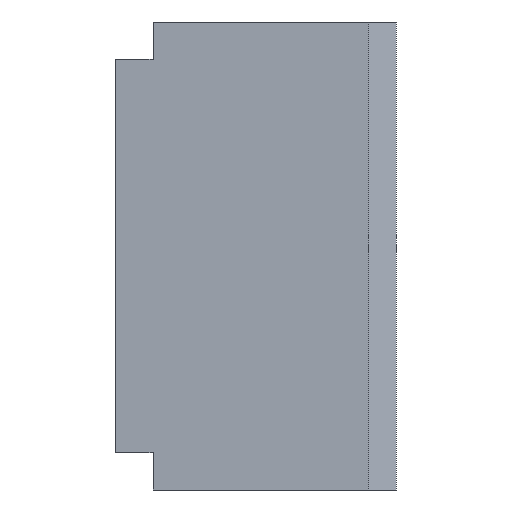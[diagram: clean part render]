
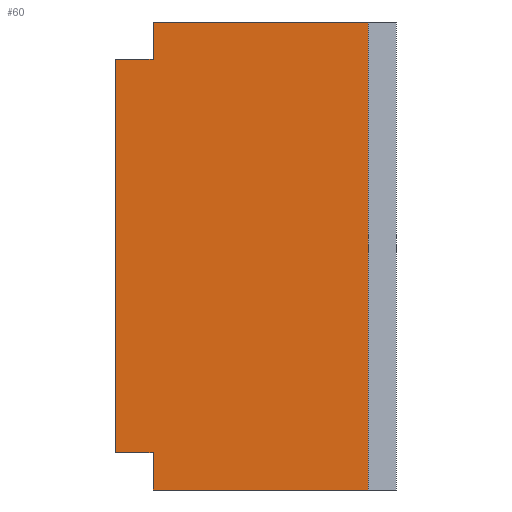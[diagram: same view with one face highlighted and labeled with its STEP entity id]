
A CAD part, front view. The second image highlights one B-rep face of the part: STEP entity #60.
In plain terms, the highlighted planar face has unit normal (0, -1, 0).
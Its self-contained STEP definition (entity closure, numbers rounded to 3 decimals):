
#60=ADVANCED_FACE('',(#82),#83,.T.);
#82=FACE_OUTER_BOUND('',#105,.T.);
#83=PLANE('',#106);
#105=EDGE_LOOP('',(#178,#179,#180,#181,#182,#183,#184,#185));
#106=AXIS2_PLACEMENT_3D('',#186,#187,#188);
#178=ORIENTED_EDGE('',*,*,#200,.T.);
#179=ORIENTED_EDGE('',*,*,#224,.F.);
#180=ORIENTED_EDGE('',*,*,#222,.T.);
#181=ORIENTED_EDGE('',*,*,#217,.T.);
#182=ORIENTED_EDGE('',*,*,#214,.T.);
#183=ORIENTED_EDGE('',*,*,#216,.T.);
#184=ORIENTED_EDGE('',*,*,#211,.F.);
#185=ORIENTED_EDGE('',*,*,#203,.T.);
#186=CARTESIAN_POINT('',(28.5,-1.5,-1.0));
#187=DIRECTION('',(0.,-1.0,-0.0));
#188=DIRECTION('',(0.0,0.0,-1.0));
#200=EDGE_CURVE('',#230,#228,#231,.T.);
#203=EDGE_CURVE('',#235,#230,#236,.T.);
#211=EDGE_CURVE('',#235,#249,#250,.T.);
#214=EDGE_CURVE('',#254,#252,#255,.T.);
#216=EDGE_CURVE('',#252,#249,#257,.T.);
#217=EDGE_CURVE('',#258,#254,#259,.T.);
#222=EDGE_CURVE('',#266,#258,#267,.T.);
#224=EDGE_CURVE('',#266,#228,#269,.T.);
#228=VERTEX_POINT('',#274);
#230=VERTEX_POINT('',#277);
#231=LINE('',#278,#279);
#235=VERTEX_POINT('',#285);
#236=LINE('',#286,#287);
#249=VERTEX_POINT('',#307);
#250=LINE('',#308,#309);
#252=VERTEX_POINT('',#312);
#254=VERTEX_POINT('',#315);
#255=LINE('',#316,#317);
#257=LINE('',#320,#321);
#258=VERTEX_POINT('',#322);
#259=LINE('',#323,#324);
#266=VERTEX_POINT('',#335);
#267=LINE('',#336,#337);
#269=LINE('',#340,#341);
#274=CARTESIAN_POINT('',(5.5,-1.5,-1.0));
#277=CARTESIAN_POINT('',(5.5,-1.5,3.0));
#278=CARTESIAN_POINT('',(5.5,-1.5,-1.0));
#279=VECTOR('',#344,1.0);
#285=CARTESIAN_POINT('',(1.5,-1.5,3.0));
#286=CARTESIAN_POINT('',(17.0,-1.5,3.0));
#287=VECTOR('',#347,1.0);
#307=CARTESIAN_POINT('',(1.5,-1.5,45.0));
#308=CARTESIAN_POINT('',(1.5,-1.5,-1.0));
#309=VECTOR('',#355,0.3);
#312=CARTESIAN_POINT('',(5.5,-1.5,45.0));
#315=CARTESIAN_POINT('',(5.5,-1.5,49.0));
#316=CARTESIAN_POINT('',(5.5,-1.5,22.0));
#317=VECTOR('',#358,1.0);
#320=CARTESIAN_POINT('',(15.0,-1.5,45.0));
#321=VECTOR('',#360,1.0);
#322=CARTESIAN_POINT('',(28.5,-1.5,49.0));
#323=CARTESIAN_POINT('',(28.5,-1.5,49.0));
#324=VECTOR('',#361,1.0);
#335=CARTESIAN_POINT('',(28.5,-1.5,-1.0));
#336=CARTESIAN_POINT('',(28.5,-1.5,-1.0));
#337=VECTOR('',#366,0.3);
#340=CARTESIAN_POINT('',(28.5,-1.5,-1.0));
#341=VECTOR('',#368,1.0);
#344=DIRECTION('',(0.,0.,-1.0));
#347=DIRECTION('',(1.0,0.,0.));
#355=DIRECTION('',(0.0,0.0,1.0));
#358=DIRECTION('',(0.,0.,-1.0));
#360=DIRECTION('',(-1.0,0.,0.));
#361=DIRECTION('',(-1.0,0.,0.0));
#366=DIRECTION('',(0.0,0.0,1.0));
#368=DIRECTION('',(-1.0,0.,0.0));
